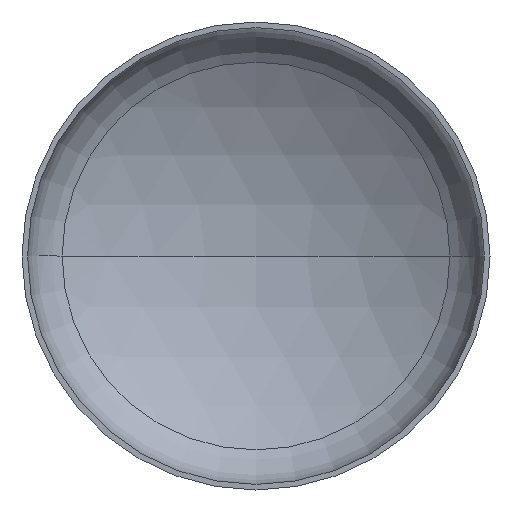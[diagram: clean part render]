
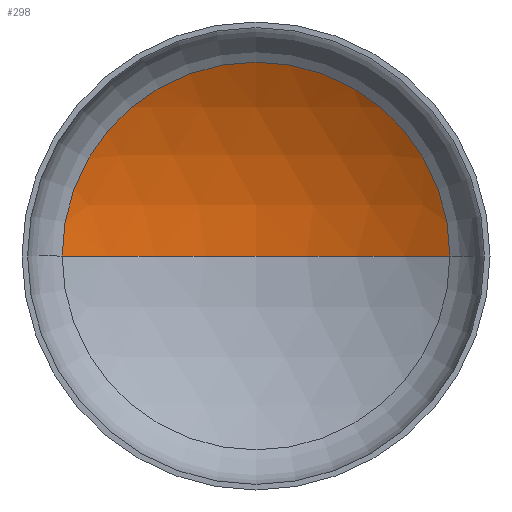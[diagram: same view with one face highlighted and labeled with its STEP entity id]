
A CAD part, front view. The second image highlights one B-rep face of the part: STEP entity #298.
In plain terms, the highlighted spherical face has radius 2560 mm.
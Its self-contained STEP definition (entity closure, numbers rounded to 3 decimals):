
#1 = AXIS2_PLACEMENT_3D ( 'NONE', #388, #244, #410 ) ;
#3 = AXIS2_PLACEMENT_3D ( 'NONE', #335, #199, #71 ) ;
#7 = AXIS2_PLACEMENT_3D ( 'NONE', #118, #305, #164 ) ;
#23 = AXIS2_PLACEMENT_3D ( 'NONE', #28, #250, #117 ) ;
#28 = CARTESIAN_POINT ( 'NONE',  ( 0., -1650.795, 0. ) ) ;
#38 = ORIENTED_EDGE ( 'NONE', *, *, #374, .T. ) ;
#50 = EDGE_LOOP ( 'NONE', ( #105, #55, #38 ) ) ;
#55 = ORIENTED_EDGE ( 'NONE', *, *, #369, .T. ) ;
#67 = VERTEX_POINT ( 'NONE', #347 ) ;
#71 = DIRECTION ( 'NONE',  ( 1., 0., 0. ) ) ;
#105 = ORIENTED_EDGE ( 'NONE', *, *, #346, .F. ) ;
#117 = DIRECTION ( 'NONE',  ( -1., 0., 0. ) ) ;
#118 = CARTESIAN_POINT ( 'NONE',  ( 0., -1650.795, 0. ) ) ;
#124 = VERTEX_POINT ( 'NONE', #229 ) ;
#164 = DIRECTION ( 'NONE',  ( 1., 0., 0. ) ) ;
#176 = VERTEX_POINT ( 'NONE', #396 ) ;
#199 = DIRECTION ( 'NONE',  ( 0., -1., 0. ) ) ;
#200 = FACE_OUTER_BOUND ( 'NONE', #50, .T. ) ;
#227 = CIRCLE ( 'NONE', #1, 2560. ) ;
#229 = CARTESIAN_POINT ( 'NONE',  ( 1325.758, 539.174, 0. ) ) ;
#244 = DIRECTION ( 'NONE',  ( 0., 0., -1. ) ) ;
#250 = DIRECTION ( 'NONE',  ( 0., 0., -1. ) ) ;
#298 = ADVANCED_FACE ( 'NONE', ( #200 ), #311, .F. ) ;
#305 = DIRECTION ( 'NONE',  ( 0., 0., 1. ) ) ;
#311 = SPHERICAL_SURFACE ( 'NONE', #23, 2560. ) ;
#335 = CARTESIAN_POINT ( 'NONE',  ( 0., 539.174, 0. ) ) ;
#346 = EDGE_CURVE ( 'NONE', #67, #176, #363, .T. ) ;
#347 = CARTESIAN_POINT ( 'NONE',  ( 0., 909.205, 0. ) ) ;
#356 = CIRCLE ( 'NONE', #3, 1325.758 ) ;
#363 = CIRCLE ( 'NONE', #7, 2560. ) ;
#369 = EDGE_CURVE ( 'NONE', #67, #124, #227, .T. ) ;
#374 = EDGE_CURVE ( 'NONE', #124, #176, #356, .T. ) ;
#388 = CARTESIAN_POINT ( 'NONE',  ( 0., -1650.795, 0. ) ) ;
#396 = CARTESIAN_POINT ( 'NONE',  ( -1325.758, 539.174, 0. ) ) ;
#410 = DIRECTION ( 'NONE',  ( -1., 0., 0. ) ) ;
